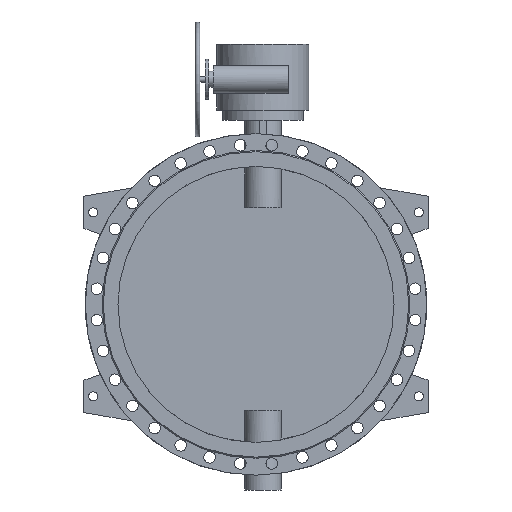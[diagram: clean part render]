
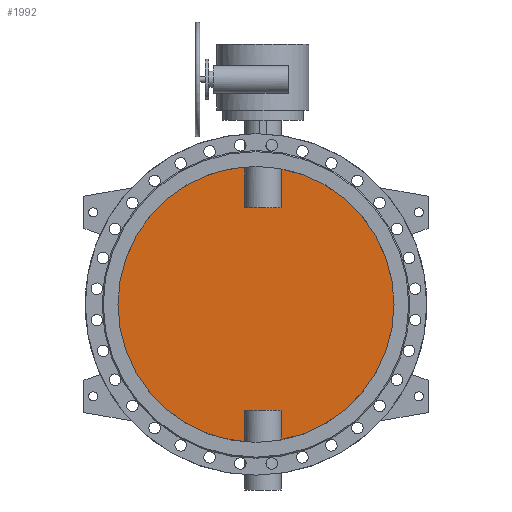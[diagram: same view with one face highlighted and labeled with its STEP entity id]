
A CAD part, front view. The second image highlights one B-rep face of the part: STEP entity #1992.
In plain terms, the highlighted planar face has unit normal (0, -1, 0).
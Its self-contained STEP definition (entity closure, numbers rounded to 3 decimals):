
#1992=ADVANCED_FACE('',(#4205),#4207,.F.);
#4205=FACE_BOUND('',#4206,.T.);
#4206=EDGE_LOOP('',(#5260,#5261,#5262,#5263,#5264,#5265,#5266,#5267));
#4207=PLANE('',#4208);
#4208=AXIS2_PLACEMENT_3D('',#4209,#4210,#4211);
#4209=CARTESIAN_POINT('',(0.,-5.,0.));
#4210=DIRECTION('',(0.,1.,0.));
#4211=DIRECTION('',(1.,0.,0.));
#5260=ORIENTED_EDGE('',*,*,#5767,.T.);
#5261=ORIENTED_EDGE('',*,*,#5773,.T.);
#5262=ORIENTED_EDGE('',*,*,#5774,.T.);
#5263=ORIENTED_EDGE('',*,*,#5775,.T.);
#5264=ORIENTED_EDGE('',*,*,#5769,.T.);
#5265=ORIENTED_EDGE('',*,*,#5776,.T.);
#5266=ORIENTED_EDGE('',*,*,#5777,.T.);
#5267=ORIENTED_EDGE('',*,*,#5778,.T.);
#5767=EDGE_CURVE('',#6621,#6622,#6623,.F.);
#5769=EDGE_CURVE('',#6626,#6624,#6627,.F.);
#5773=EDGE_CURVE('',#6622,#6633,#6634,.T.);
#5774=EDGE_CURVE('',#6633,#6635,#6636,.F.);
#5775=EDGE_CURVE('',#6635,#6626,#6637,.F.);
#5776=EDGE_CURVE('',#6624,#6638,#6639,.F.);
#5777=EDGE_CURVE('',#6638,#6640,#6641,.F.);
#5778=EDGE_CURVE('',#6640,#6621,#6642,.T.);
#6621=VERTEX_POINT('',#9636);
#6622=VERTEX_POINT('',#9637);
#6623=CIRCLE('',#9638,600.);
#6624=VERTEX_POINT('',#9642);
#6626=VERTEX_POINT('',#9736);
#6627=CIRCLE('',#9737,600.);
#6633=VERTEX_POINT('',#9845);
#6634=LINE('',#9846,#9847);
#6635=VERTEX_POINT('',#9849);
#6636=LINE('',#9850,#9851);
#6637=LINE('',#9853,#9854);
#6638=VERTEX_POINT('',#9856);
#6639=LINE('',#9857,#9858);
#6640=VERTEX_POINT('',#9860);
#6641=LINE('',#9861,#9862);
#6642=LINE('',#9864,#9865);
#9636=CARTESIAN_POINT('',(109.844,-5.,-589.86));
#9637=CARTESIAN_POINT('',(109.844,-5.,589.86));
#9638=AXIS2_PLACEMENT_3D('',#9639,#9640,#9641);
#9639=CARTESIAN_POINT('',(0.,-5.,0.));
#9640=DIRECTION('',(0.,1.,0.));
#9641=DIRECTION('',(0.183,0.,0.983));
#9642=CARTESIAN_POINT('',(-49.844,-5.,-597.926));
#9736=CARTESIAN_POINT('',(-49.844,-5.,597.926));
#9737=AXIS2_PLACEMENT_3D('',#9738,#9739,#9740);
#9738=CARTESIAN_POINT('',(0.,-5.,0.));
#9739=DIRECTION('',(0.,1.,0.));
#9740=DIRECTION('',(-0.083,0.,-0.997));
#9845=CARTESIAN_POINT('',(109.844,-5.,420.));
#9846=CARTESIAN_POINT('',(109.844,-5.,589.86));
#9847=VECTOR('',#9848,1.);
#9848=DIRECTION('',(0.,0.,-1.));
#9849=CARTESIAN_POINT('',(-49.844,-5.,420.));
#9850=CARTESIAN_POINT('',(-49.844,-5.,420.));
#9851=VECTOR('',#9852,1.);
#9852=DIRECTION('',(1.,0.,0.));
#9853=CARTESIAN_POINT('',(-49.844,-5.,597.926));
#9854=VECTOR('',#9855,1.);
#9855=DIRECTION('',(0.,0.,-1.));
#9856=CARTESIAN_POINT('',(-49.844,-5.,-460.));
#9857=CARTESIAN_POINT('',(-49.844,-5.,-460.));
#9858=VECTOR('',#9859,1.);
#9859=DIRECTION('',(0.,0.,-1.));
#9860=CARTESIAN_POINT('',(109.844,-5.,-460.));
#9861=CARTESIAN_POINT('',(109.844,-5.,-460.));
#9862=VECTOR('',#9863,1.);
#9863=DIRECTION('',(-1.,0.,0.));
#9864=CARTESIAN_POINT('',(109.844,-5.,-460.));
#9865=VECTOR('',#9866,1.);
#9866=DIRECTION('',(0.,0.,-1.));
